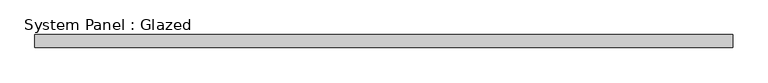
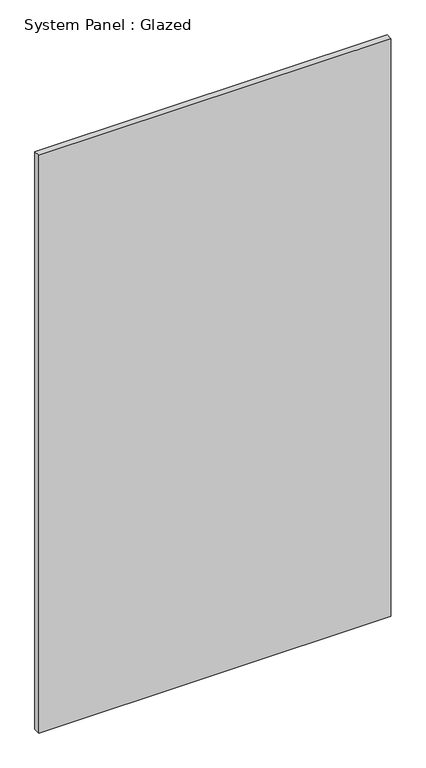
"""IFC4 building model written with IfcOpenShell, lengths in millimetres: plate geometry, System Panel : Glazed."""

from ifc_helpers import new_model, si_unit, origin, origin_with_axes, place, context, project, spatial, polyline, outline, extrude, source, transform, mapped, element, save


def system_panel_glazed_39b2f593(model_context):
    return source(origin(), model_context, "Body", "SweptSolid", [
        extrude(outline(polyline([(670.4166666, 24.5), (-670.4166666, 24.5), (-670.4166666, 49.5), (670.4166666, 49.5), (670.4166666, 24.5)])), origin_with_axes(), (0.0, 0.0, 1.0), 2325.0),
    ])


if __name__ == "__main__":
    model = new_model("IFC4")
    model_context = context("Model", 3, world=origin())
    ifc_project = project(units=[si_unit("LENGTHUNIT", "METRE", prefix="MILLI")], contexts=[model_context])
    site = spatial("IfcSite", under=ifc_project)
    building = spatial("IfcBuilding", under=site)
    placement = place(None, origin())
    system_panel_glazed_shape = system_panel_glazed_39b2f593(model_context)
    element("IfcPlate", 1, ObjectType="System Panel : Glazed", at=placement, inside=building, context=model_context, shape_type="MappedRepresentation", body=[
        mapped(system_panel_glazed_shape, transform((0.0, 0.0, 0.0), x_axis=(1.0, 0.0, 0.0), y_axis=(0.0, 1.0, 0.0), z_axis=(0.0, 0.0, 1.0))),
    ])
    save(model, "model.ifc")
